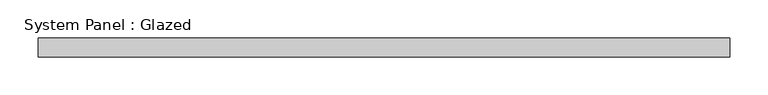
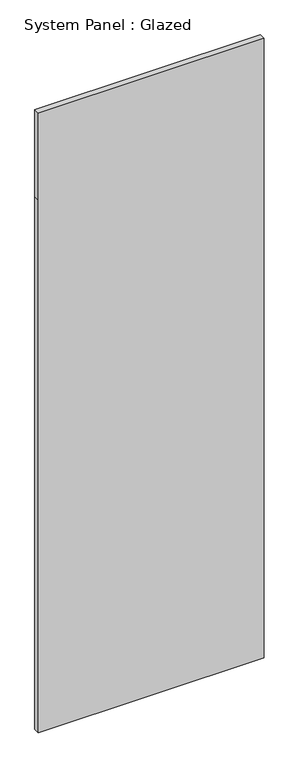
"""IFC4 building model written with IfcOpenShell, lengths in millimetres: plate geometry, System Panel : Glazed."""

from ifc_helpers import new_model, si_unit, frame, origin, place, context, project, spatial, polyline, outline, extrude, source, transform, mapped, element, save


def system_panel_glazed_c8095f32(model_context):
    return source(origin(), model_context, "Body", "SweptSolid", [
        extrude(outline(polyline([(0.0, -454.5200001), (0.0, 454.5200001), (2270.0, 454.5200001), (2640.0, 454.5200001), (2640.0, -454.5200001), (2270.0, -454.5200001), (0.0, -454.5200001)])), frame((0.0, -25.0, 0.0), z_axis=(0.0, 1.0, 0.0), x_axis=(0.0, 0.0, 1.0)), (0.0, 0.0, 1.0), 25.0),
    ])


if __name__ == "__main__":
    model = new_model("IFC4")
    model_context = context("Model", 3, world=origin())
    ifc_project = project(units=[si_unit("LENGTHUNIT", "METRE", prefix="MILLI")], contexts=[model_context])
    site = spatial("IfcSite", under=ifc_project)
    building = spatial("IfcBuilding", under=site)
    placement = place(None, origin())
    system_panel_glazed_shape = system_panel_glazed_c8095f32(model_context)
    element("IfcPlate", 1, ObjectType="System Panel : Glazed", at=placement, inside=building, context=model_context, shape_type="MappedRepresentation", body=[
        mapped(system_panel_glazed_shape, transform((0.0, 0.0, 0.0), x_axis=(1.0, 0.0, 0.0), y_axis=(0.0, 1.0, 0.0), z_axis=(0.0, 0.0, 1.0))),
    ])
    save(model, "model.ifc")
